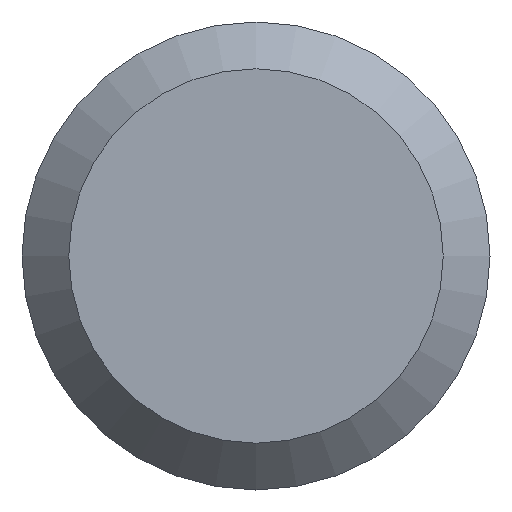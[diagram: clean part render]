
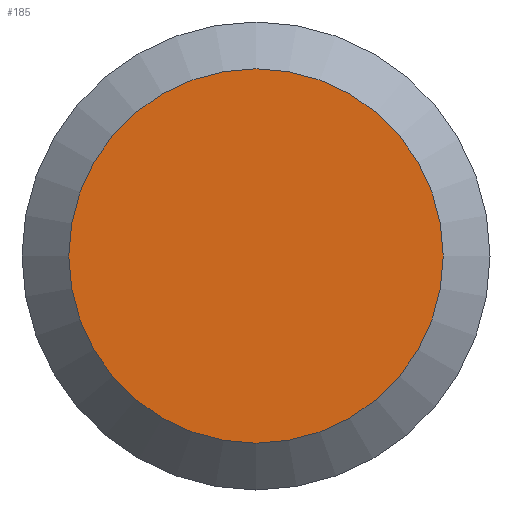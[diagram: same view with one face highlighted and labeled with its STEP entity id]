
A CAD part, left-side view. The second image highlights one B-rep face of the part: STEP entity #185.
In plain terms, the highlighted planar face has unit normal (-1, 0, 0).
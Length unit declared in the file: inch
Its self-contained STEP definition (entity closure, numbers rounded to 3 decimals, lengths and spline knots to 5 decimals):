
#9 = DIRECTION ( 'NONE',  ( 0., 0., -1. ) ) ;
#39 = CARTESIAN_POINT ( 'NONE',  ( 0., 0.0215, 0. ) ) ;
#46 = AXIS2_PLACEMENT_3D ( 'NONE', #39, #195, #9 ) ;
#52 = PLANE ( 'NONE',  #46 ) ;
#60 = EDGE_LOOP ( 'NONE', ( #63 ) ) ;
#63 = ORIENTED_EDGE ( 'NONE', *, *, #149, .T. ) ;
#115 = DIRECTION ( 'NONE',  ( -1., 0., 0. ) ) ;
#117 = CIRCLE ( 'NONE', #142, 0.0172 ) ;
#142 = AXIS2_PLACEMENT_3D ( 'NONE', #243, #115, #208 ) ;
#149 = EDGE_CURVE ( 'NONE', #181, #181, #117, .T. ) ;
#181 = VERTEX_POINT ( 'NONE', #205 ) ;
#185 = ADVANCED_FACE ( 'NONE', ( #189 ), #52, .F. ) ;
#189 = FACE_OUTER_BOUND ( 'NONE', #60, .T. ) ;
#195 = DIRECTION ( 'NONE',  ( 1., 0., 0. ) ) ;
#205 = CARTESIAN_POINT ( 'NONE',  ( 0., 0., -0.0172 ) ) ;
#208 = DIRECTION ( 'NONE',  ( 0., 0., -1. ) ) ;
#243 = CARTESIAN_POINT ( 'NONE',  ( 0., 0., 0. ) ) ;
